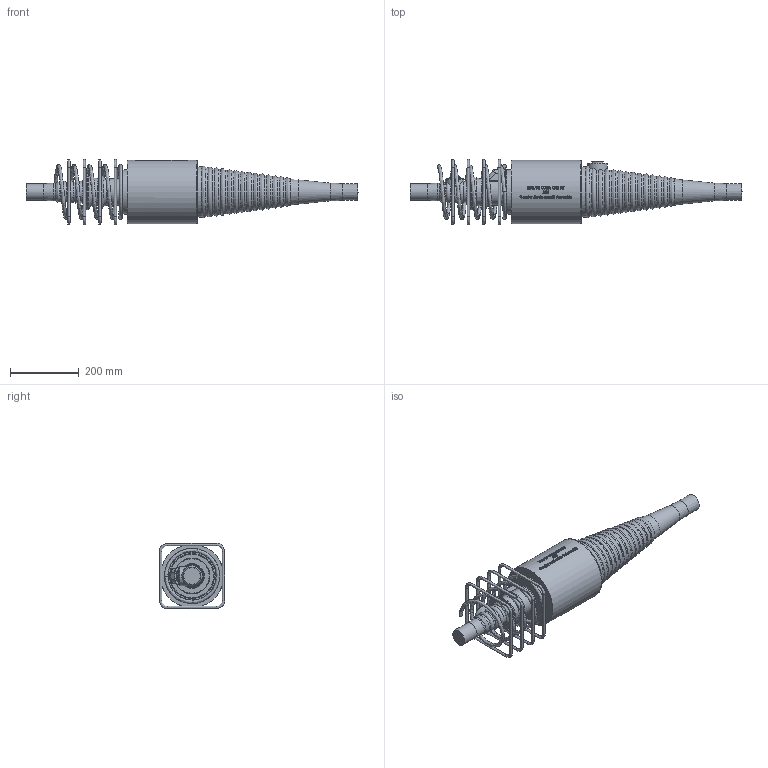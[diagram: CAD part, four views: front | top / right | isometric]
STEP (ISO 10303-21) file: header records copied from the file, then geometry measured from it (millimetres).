
FILE_DESCRIPTION(/* description */ (''),/* implementation_level */ '2;1');
FILE_NAME(/* name */ 'Z:\04 Publications\05 Give-out\BBR\6_3D_Models\BBR VT CONA CMI\BBR VT CONA CMI BT\00306\BBR VT CONA CMI BT 306_Coupler H Assembly_CS-34,28.stp',/* time_stamp */ '2017-05-04T16:10:22+02:00',/* author */ ('IP'),/* organization */ (''),/* preprocessor_version */ 'ST-DEVELOPER v16.1',/* originating_system */ 'Autodesk Inventor 2016',/* authorisation */ '');
FILE_SCHEMA (('AUTOMOTIVE_DESIGN { 1 0 10303 214 3 1 1 }'));
Length unit declared in the file: millimetre
Products named in the file (1): BBR VT CONA CMI BT 306_Coupler H Assembly_CS-34,28
Bounding box: 965.07 x 190 x 190 mm (x, y, z)
Volume: 10557035 mm3; surface area: 526058.6 mm2
Topology: 6 solids, 6 shells, 927 faces, 2383 edges, 1523 vertices
Faces by surface type: bspline 396, plane 297, cylinder 97, torus 96, cone 29, sphere 12
Full cylindrical faces by diameter (mm): 8 x16, 32 x1, 34.158 x1, 49 x1, 55 x1, 57 x1, 104 x2, 130 x1, 185 x1
Entity records: 37390 total; most frequent: CARTESIAN_POINT 17384, ORIENTED_EDGE 4494, DIRECTION 3076, EDGE_CURVE 2247, VERTEX_POINT 1512, EDGE_LOOP 1115, AXIS2_PLACEMENT_3D 1086, FACE_OUTER_BOUND 927
